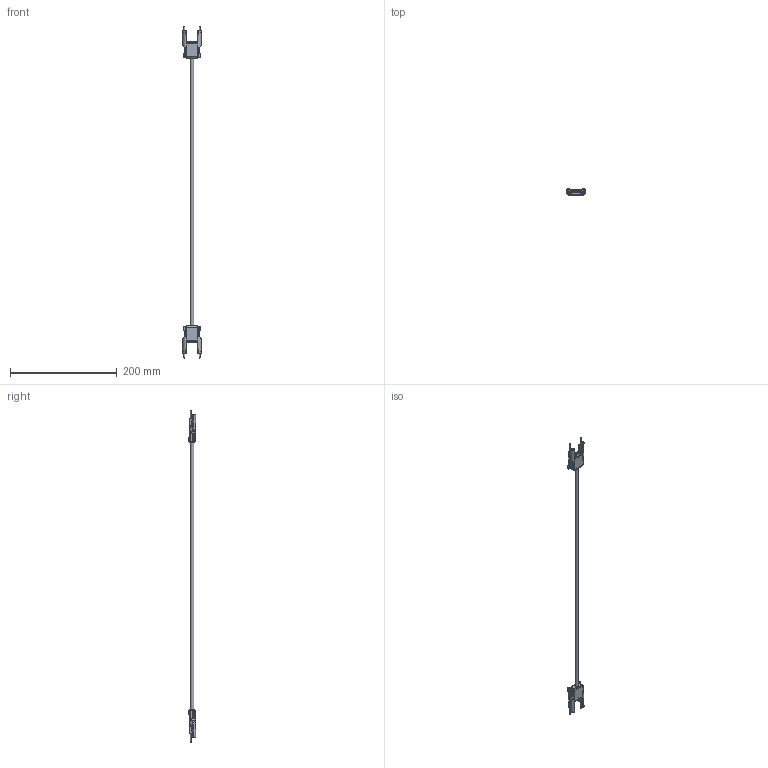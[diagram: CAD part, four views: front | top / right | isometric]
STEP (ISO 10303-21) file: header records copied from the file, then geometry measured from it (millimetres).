
FILE_DESCRIPTION(/* description */ (''),/* implementation_level */ '2;1');
FILE_NAME(/* name */ 'DSD- (95A252850-a).stp',/* time_stamp */ '2020-06-01T12:36:31+02:00',/* author */ (''),/* organization */ (''),/* preprocessor_version */ 'ST-DEVELOPER v16.7',/* originating_system */ 'SIEMENS PLM Software NX 12.0',/* authorisation */ '');
FILE_SCHEMA (('AUTOMOTIVE_DESIGN { 1 0 10303 214 3 1 1 1 }'));
Length unit declared in the file: millimetre
Products named in the file (5): AP025541_00_1-Cavo D6 L500 cascade; MP001991_02_1-Vite imp. M2x29_5 testa cil. Ph; MP001955_04_1-Corpo connettore SG4E; MP001951_02_1-Guarnizione connettore SG4E; AS000534_05_1-SG4E cable plugs
Assembly tree (9 placements, depth 2):
  AS000534_05_1-SG4E cable plugs
    MP001951_02_1-Guarnizione connettore SG4E  x2
    MP001955_04_1-Corpo connettore SG4E  x2
    MP001991_02_1-Vite imp. M2x29_5 testa cil. Ph  x4
    AP025541_00_1-Cavo D6 L500 cascade
Bounding box: 35 x 13.4 x 621.4 mm (x, y, z)
Volume: 34150.6 mm3; surface area: 23131.2 mm2
Topology: 9 solids, 9 shells, 1545 faces, 3925 edges, 2506 vertices
Faces by surface type: plane 1126, cylinder 239, bspline 90, cone 44, torus 38, sphere 8
Full cylindrical faces by diameter (mm): 1.6 x4, 1.8 x4, 1.886 x4, 2.05 x4, 3.6 x4, 4 x4, 6 x1
Entity records: 22817 total; most frequent: CARTESIAN_POINT 5122, ORIENTED_EDGE 3654, DIRECTION 3502, EDGE_CURVE 1827, LINE 1376, VECTOR 1376, VERTEX_POINT 1186, AXIS2_PLACEMENT_3D 1063
